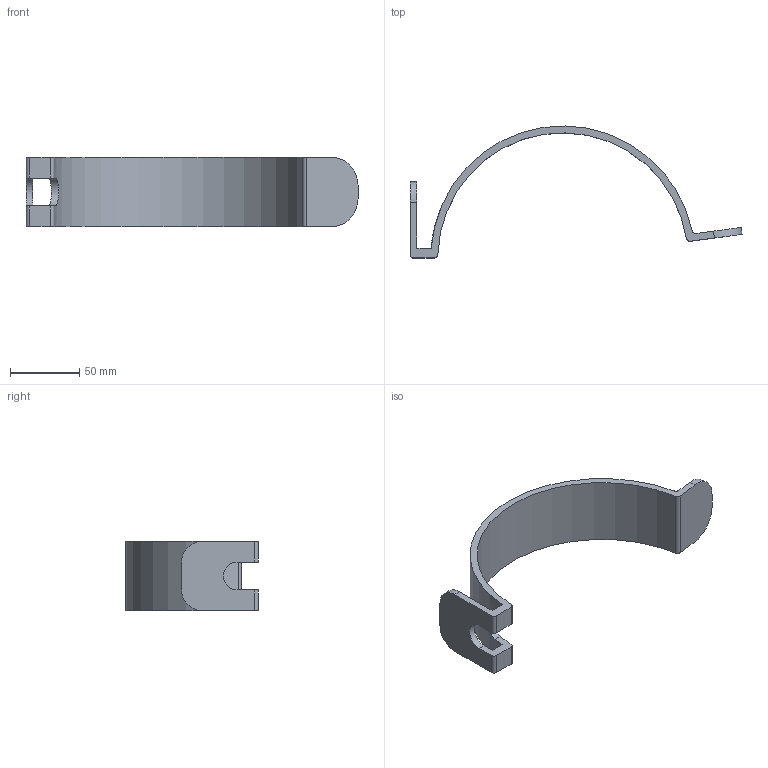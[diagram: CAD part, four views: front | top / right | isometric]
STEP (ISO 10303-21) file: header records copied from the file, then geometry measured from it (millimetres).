
FILE_DESCRIPTION(/* description */ ('STEP AP242','CAx-IF Rec.Pracs.---Representation and Presentation of Product Manufacturing Information (PMI)---4.0---2014-10-13','CAx-IF Rec.Pracs.---3D Tessellated Geometry---0.4---2014-09-14','2;1'),/* implementation_level */ '2;1');
FILE_NAME(/* name */ '6772ec2896be7d5e4233d465',/* time_stamp */ '2024-12-30T18:53:29Z',/* author */ (''),/* organization */ (''),/* preprocessor_version */ 'ST-DEVELOPER v20',/* originating_system */ 'ONSHAPE BY PTC INC, 1.191',/* authorisation */ ' ');
FILE_SCHEMA (('AP242_MANAGED_MODEL_BASED_3D_ENGINEERING_MIM_LF { 1 0 10303 442 1 1 4 }'));
Length unit declared in the file: metre
Products named in the file (1): High hat
Bounding box: 238.89 x 94.99 x 50 mm (x, y, z)
Volume: 88228.5 mm3; surface area: 39732.9 mm2
Topology: 1 solids, 1 shells, 28 faces, 86 edges, 58 vertices
Faces by surface type: plane 14, cylinder 14
Entity records: 1018 total; most frequent: CARTESIAN_POINT 197, ORIENTED_EDGE 172, DIRECTION 170, EDGE_CURVE 86, AXIS2_PLACEMENT_3D 59, VERTEX_POINT 58, LINE 52, VECTOR 52
